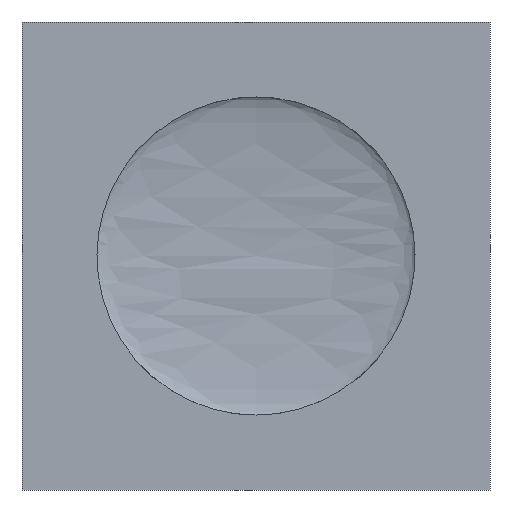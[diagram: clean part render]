
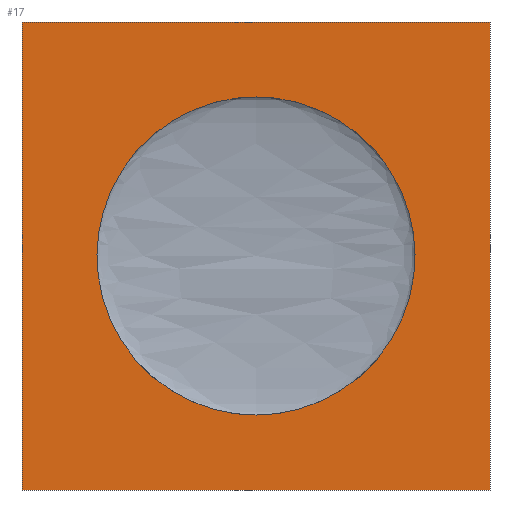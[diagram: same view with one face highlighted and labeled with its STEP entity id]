
A CAD part, front view. The second image highlights one B-rep face of the part: STEP entity #17.
In plain terms, the highlighted planar face has unit normal (0, -1, 0).
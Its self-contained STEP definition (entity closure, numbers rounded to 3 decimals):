
#15=FACE_BOUND('',#32,.T.);
#17=ADVANCED_FACE('',(#24,#15),#106,.T.);
#24=FACE_OUTER_BOUND('',#31,.T.);
#31=EDGE_LOOP('',(#42,#43,#44,#45));
#32=EDGE_LOOP('',(#46,#47));
#42=ORIENTED_EDGE('',*,*,#70,.T.);
#43=ORIENTED_EDGE('',*,*,#71,.T.);
#44=ORIENTED_EDGE('',*,*,#72,.F.);
#45=ORIENTED_EDGE('',*,*,#67,.F.);
#46=ORIENTED_EDGE('',*,*,#78,.F.);
#47=ORIENTED_EDGE('',*,*,#79,.T.);
#67=EDGE_CURVE('',#95,#96,#83,.T.);
#70=EDGE_CURVE('',#95,#98,#86,.T.);
#71=EDGE_CURVE('',#98,#99,#87,.T.);
#72=EDGE_CURVE('',#96,#99,#88,.T.);
#78=EDGE_CURVE('',#103,#102,#80,.T.);
#79=EDGE_CURVE('',#103,#102,#81,.T.);
#80=(
BOUNDED_CURVE()
B_SPLINE_CURVE(2,(#234,#235,#236,#237,#238),.UNSPECIFIED.,.F.,.F.)
B_SPLINE_CURVE_WITH_KNOTS((3,2,3),(-160.107,0.,160.107),
 .UNSPECIFIED.)
CURVE()
GEOMETRIC_REPRESENTATION_ITEM()
RATIONAL_B_SPLINE_CURVE((1.,0.707,1.,0.707,1.))
REPRESENTATION_ITEM('')
);
#81=(
BOUNDED_CURVE()
B_SPLINE_CURVE(2,(#239,#240,#241,#242,#243),.UNSPECIFIED.,.F.,.F.)
B_SPLINE_CURVE_WITH_KNOTS((3,2,3),(-160.107,0.,160.107),
 .UNSPECIFIED.)
CURVE()
GEOMETRIC_REPRESENTATION_ITEM()
RATIONAL_B_SPLINE_CURVE((1.,0.707,1.,0.707,1.))
REPRESENTATION_ITEM('')
);
#83=B_SPLINE_CURVE_WITH_KNOTS('',1,(#212,#213),.UNSPECIFIED.,.F.,.F.,(2,
2),(0.,600.),.UNSPECIFIED.);
#86=B_SPLINE_CURVE_WITH_KNOTS('',1,(#218,#219),.UNSPECIFIED.,.F.,.F.,(2,
2),(6.,1316.),.UNSPECIFIED.);
#87=B_SPLINE_CURVE_WITH_KNOTS('',1,(#220,#221),.UNSPECIFIED.,.F.,.F.,(2,
2),(0.,600.),.UNSPECIFIED.);
#88=B_SPLINE_CURVE_WITH_KNOTS('',1,(#222,#223),.UNSPECIFIED.,.F.,.F.,(2,
2),(6.,1316.),.UNSPECIFIED.);
#95=VERTEX_POINT('',#201);
#96=VERTEX_POINT('',#202);
#98=VERTEX_POINT('',#204);
#99=VERTEX_POINT('',#205);
#102=VERTEX_POINT('',#208);
#103=VERTEX_POINT('',#209);
#106=PLANE('',#132);
#132=AXIS2_PLACEMENT_3D('',#150,#141,$);
#141=DIRECTION('',(0.,-1.,0.));
#150=CARTESIAN_POINT('',(9753.,-419.,0.));
#201=CARTESIAN_POINT('',(9753.,-419.,0.));
#202=CARTESIAN_POINT('',(9153.,-419.,0.));
#204=CARTESIAN_POINT('',(9753.,-419.,600.));
#205=CARTESIAN_POINT('',(9153.,-419.,600.));
#208=CARTESIAN_POINT('',(9453.,-419.,503.854));
#209=CARTESIAN_POINT('',(9453.,-419.,96.146));
#212=CARTESIAN_POINT('',(9753.,-419.,0.));
#213=CARTESIAN_POINT('',(9153.,-419.,0.));
#218=CARTESIAN_POINT('',(9753.,-419.,0.));
#219=CARTESIAN_POINT('',(9753.,-419.,600.));
#220=CARTESIAN_POINT('',(9753.,-419.,600.));
#221=CARTESIAN_POINT('',(9153.,-419.,600.));
#222=CARTESIAN_POINT('',(9153.,-419.,0.));
#223=CARTESIAN_POINT('',(9153.,-419.,600.));
#234=CARTESIAN_POINT('',(9453.,-419.,96.146));
#235=CARTESIAN_POINT('',(9656.854,-419.,96.146));
#236=CARTESIAN_POINT('',(9656.854,-419.,300.));
#237=CARTESIAN_POINT('',(9656.854,-419.,503.854));
#238=CARTESIAN_POINT('',(9453.,-419.,503.854));
#239=CARTESIAN_POINT('',(9453.,-419.,96.146));
#240=CARTESIAN_POINT('',(9249.146,-419.,96.146));
#241=CARTESIAN_POINT('',(9249.146,-419.,300.));
#242=CARTESIAN_POINT('',(9249.146,-419.,503.854));
#243=CARTESIAN_POINT('',(9453.,-419.,503.854));
